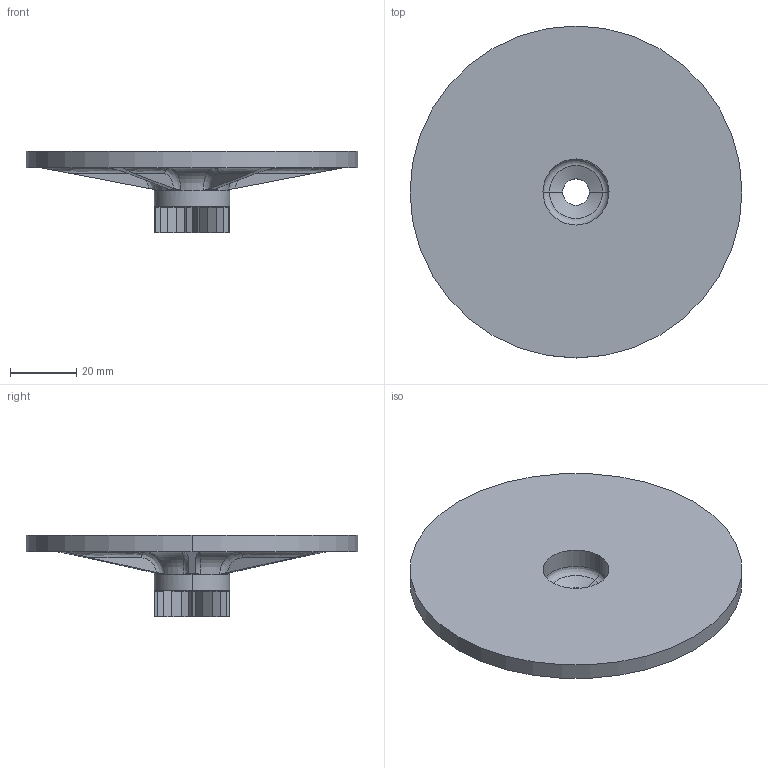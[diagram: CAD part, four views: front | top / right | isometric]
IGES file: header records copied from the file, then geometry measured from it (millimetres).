
Start section:  PTC IGES file: sandingwheel.igs
Global section: file name: sandingwheel.igs; native system: Creo Parametric by Parametric Technology Corporation; preprocessor: 2012130; author: GOC; organization: Unknown; date: 20141104.223858; units: millimetre
Bounding box: 100.38 x 100.38 x 24.74 mm (x, y, z)
Volume: 45575.5 mm3; surface area: 21097.6 mm2
Topology: 1 solids, 1 shells, 190 faces, 498 edges, 311 vertices
Faces by surface type: bspline 111, revolution 79
